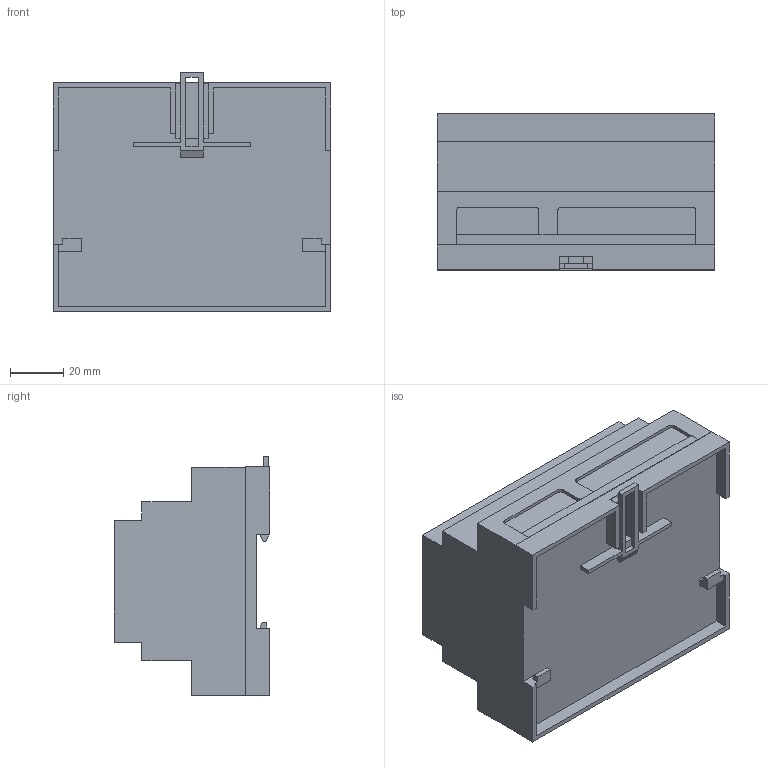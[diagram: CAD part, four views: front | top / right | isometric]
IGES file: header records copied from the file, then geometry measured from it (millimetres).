
Global section: file name: No Iges File Name specified; native system: Autodesk Inventor 2013; preprocessor: AutoDesk Inventor Iges Exporter R2013; author: lzuniga; date: 20130930.135421; units: inch
Bounding box: 104.14 x 58.42 x 89.66 mm (x, y, z)
Volume: 124384.5 mm3; surface area: 70089.5 mm2
Topology: 1 solids, 1 shells, 402 faces, 1092 edges, 725 vertices
Faces by surface type: bspline 402
